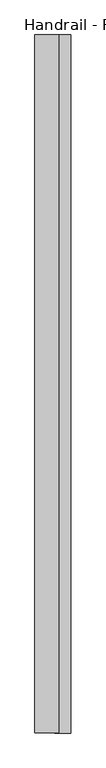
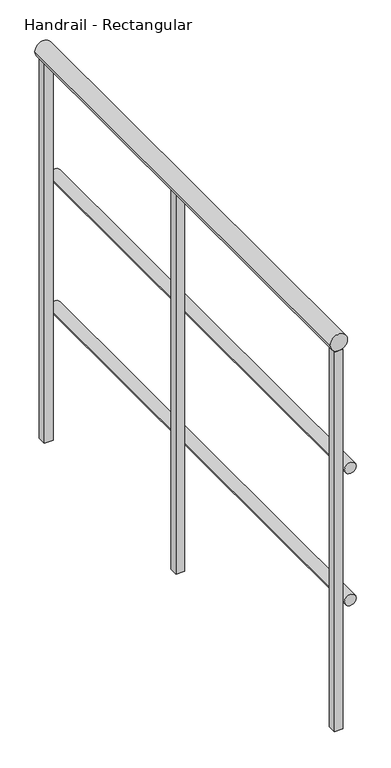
"""IFC4 building model written with IfcOpenShell, lengths in millimetres: railing geometry, Handrail - Rectangular."""

from ifc_helpers import new_model, si_unit, point, frame, frame_2d, origin, place, context, project, spatial, polyline, circle_curve, trimmed, segment, composite_curve, outline, extrude, source, transform, mapped, element, save


def handrail_rectangular_be64c713(model_context):
    return source(origin(), model_context, "Body", "SweptSolid", [
        extrude(outline(composite_curve([segment(trimmed(circle_curve(frame_2d((3644.9, -11393.4589563)), 12.7), [point((3644.9, -11380.7589563))], [point((3644.9, -11406.1589563))], False, "CARTESIAN"), True, "CONTINUOUS"), segment(trimmed(circle_curve(frame_2d((3644.9, -11393.4589563)), 12.7), [point((3644.9, -11406.1589563))], [point((3644.9, -11380.7589563))], False, "CARTESIAN"), True, "CONTINUOUS")], self_intersect=False)), frame((0.0, -35349.9683133, 0.0), z_axis=(0.0, 1.0, 0.0), x_axis=(0.0, 0.0, 1.0)), (0.0, 0.0, 1.0), 1117.6),
        extrude(outline(composite_curve([segment(trimmed(circle_curve(frame_2d((3340.1, -11393.4589563)), 12.7), [point((3340.1, -11380.7589563))], [point((3340.1, -11406.1589563))], False, "CARTESIAN"), True, "CONTINUOUS"), segment(trimmed(circle_curve(frame_2d((3340.1, -11393.4589563)), 12.7), [point((3340.1, -11406.1589563))], [point((3340.1, -11380.7589563))], False, "CARTESIAN"), True, "CONTINUOUS")], self_intersect=False)), frame((0.0, -35349.9683133, 0.0), z_axis=(0.0, 1.0, 0.0), x_axis=(0.0, 0.0, 1.0)), (0.0, 0.0, 1.0), 1117.6),
        extrude(outline(composite_curve([segment(trimmed(circle_curve(frame_2d((3943.35, -11418.8589563)), 19.05), [point((3943.35, -11399.8089563))], [point((3943.35, -11437.9089563))], False, "CARTESIAN"), True, "CONTINUOUS"), segment(trimmed(circle_curve(frame_2d((3943.35, -11418.8589563)), 19.05), [point((3943.35, -11437.9089563))], [point((3943.35, -11399.8089563))], False, "CARTESIAN"), True, "CONTINUOUS")], self_intersect=False)), frame((0.0, -35349.9683133, 0.0), z_axis=(0.0, 1.0, 0.0), x_axis=(0.0, 0.0, 1.0)), (0.0, 0.0, 1.0), 1117.6),
        extrude(outline(polyline([(-11428.3839563, -34749.8933133), (-11428.3839563, -34730.8433133), (-11409.3339563, -34730.8433133), (-11409.3339563, -34749.8933133), (-11428.3839563, -34749.8933133)])), frame((0.0, 0.0, 3048.0), z_axis=(0.0, 0.0, 1.0), x_axis=(1.0, 0.0, 0.0)), (0.0, 0.0, 1.0), 876.3),
        extrude(outline(polyline([(-11428.3839563, -34251.4183133), (-11428.3839563, -34232.3683133), (-11409.3339563, -34232.3683133), (-11409.3339563, -34251.4183133), (-11428.3839563, -34251.4183133)])), frame((0.0, 0.0, 3048.0), z_axis=(0.0, 0.0, 1.0), x_axis=(1.0, 0.0, 0.0)), (0.0, 0.0, 1.0), 876.3),
        extrude(outline(polyline([(-11428.3839563, -35349.9683133), (-11428.3839563, -35330.9183133), (-11409.3339563, -35330.9183133), (-11409.3339563, -35349.9683133), (-11428.3839563, -35349.9683133)])), frame((0.0, 0.0, 3048.0), z_axis=(0.0, 0.0, 1.0), x_axis=(1.0, 0.0, 0.0)), (0.0, 0.0, 1.0), 876.3),
    ])


if __name__ == "__main__":
    model = new_model("IFC4")
    model_context = context("Model", 3, world=origin())
    ifc_project = project(units=[si_unit("LENGTHUNIT", "METRE", prefix="MILLI")], contexts=[model_context])
    site = spatial("IfcSite", under=ifc_project)
    building = spatial("IfcBuilding", under=site)
    placement = place(None, origin())
    handrail_rectangular_shape = handrail_rectangular_be64c713(model_context)
    element("IfcRailing", 1, ObjectType="Handrail - Rectangular", at=placement, inside=building, context=model_context, shape_type="MappedRepresentation", body=[
        mapped(handrail_rectangular_shape, transform((0.0, 0.0, 0.0), x_axis=(1.0, 0.0, 0.0), y_axis=(0.0, 1.0, 0.0), z_axis=(0.0, 0.0, 1.0))),
    ])
    save(model, "model.ifc")
